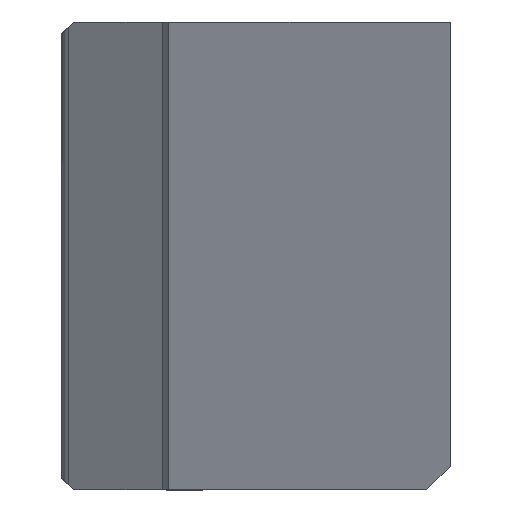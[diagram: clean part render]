
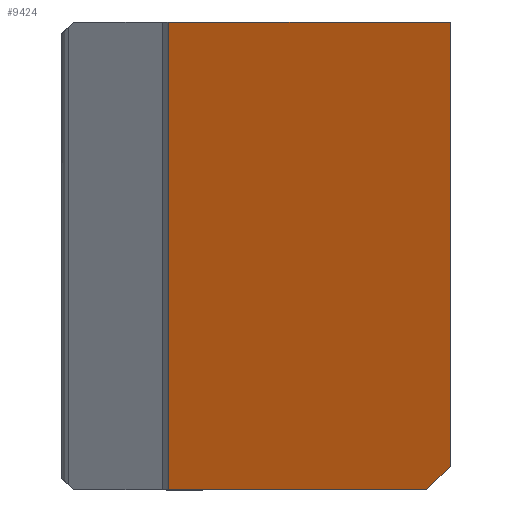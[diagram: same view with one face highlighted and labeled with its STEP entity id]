
A CAD part, left-side view. The second image highlights one B-rep face of the part: STEP entity #9424.
In plain terms, the highlighted planar face has unit normal (-0.943, 0, -0.334).
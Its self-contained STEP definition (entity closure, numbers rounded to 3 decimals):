
#23 = FACE_OUTER_BOUND ( 'NONE', #12364, .T. ) ;
#392 = EDGE_CURVE ( 'NONE', #17399, #10038, #18808, .T. ) ;
#1404 = DIRECTION ( 'NONE',  ( 0., -1., 0. ) ) ;
#1837 = CARTESIAN_POINT ( 'NONE',  ( 20.926, 3., -59. ) ) ;
#2043 = LINE ( 'NONE', #12326, #12205 ) ;
#2516 = ORIENTED_EDGE ( 'NONE', *, *, #18704, .F. ) ;
#3755 = EDGE_CURVE ( 'NONE', #11437, #7667, #8639, .T. ) ;
#3999 = VECTOR ( 'NONE', #1404, 1000. ) ;
#4642 = ORIENTED_EDGE ( 'NONE', *, *, #392, .T. ) ;
#5905 = DIRECTION ( 'NONE',  ( -0.334, 0., 0.942 ) ) ;
#7667 = VERTEX_POINT ( 'NONE', #8068 ) ;
#8068 = CARTESIAN_POINT ( 'NONE',  ( 0., 0., 0. ) ) ;
#8317 = DIRECTION ( 'NONE',  ( 0.334, 0., -0.942 ) ) ;
#8495 = DIRECTION ( 'NONE',  ( -0.243, -0.686, 0.686 ) ) ;
#8639 = LINE ( 'NONE', #14830, #3999 ) ;
#8878 = EDGE_CURVE ( 'NONE', #14195, #11437, #2043, .T. ) ;
#8999 = CARTESIAN_POINT ( 'NONE',  ( 20.926, 49., -59. ) ) ;
#9079 = ORIENTED_EDGE ( 'NONE', *, *, #15951, .F. ) ;
#9402 = ORIENTED_EDGE ( 'NONE', *, *, #8878, .F. ) ;
#9424 = ADVANCED_FACE ( 'NONE', ( #23 ), #11968, .T. ) ;
#9855 = CARTESIAN_POINT ( 'NONE',  ( 20.926, 35.5, -59. ) ) ;
#10038 = VERTEX_POINT ( 'NONE', #18221 ) ;
#10569 = DIRECTION ( 'NONE',  ( 0., 1., 0. ) ) ;
#11074 = CARTESIAN_POINT ( 'NONE',  ( 20.926, 0., -59. ) ) ;
#11339 = CARTESIAN_POINT ( 'NONE',  ( 9.343, -29.657, -26.343 ) ) ;
#11437 = VERTEX_POINT ( 'NONE', #16934 ) ;
#11968 = PLANE ( 'NONE',  #13160 ) ;
#12205 = VECTOR ( 'NONE', #18307, 1000. ) ;
#12326 = CARTESIAN_POINT ( 'NONE',  ( 0., 35.5, 0. ) ) ;
#12364 = EDGE_LOOP ( 'NONE', ( #9079, #4642, #2516, #15202, #9402 ) ) ;
#13160 = AXIS2_PLACEMENT_3D ( 'NONE', #19338, #15020, #5905 ) ;
#13631 = VECTOR ( 'NONE', #10569, 1000. ) ;
#14072 = VECTOR ( 'NONE', #8495, 1000. ) ;
#14195 = VERTEX_POINT ( 'NONE', #9855 ) ;
#14830 = CARTESIAN_POINT ( 'NONE',  ( 0., 49., 0. ) ) ;
#15020 = DIRECTION ( 'NONE',  ( -0.942, 0., -0.334 ) ) ;
#15202 = ORIENTED_EDGE ( 'NONE', *, *, #3755, .F. ) ;
#15374 = LINE ( 'NONE', #8999, #13631 ) ;
#15951 = EDGE_CURVE ( 'NONE', #17399, #14195, #15374, .T. ) ;
#16934 = CARTESIAN_POINT ( 'NONE',  ( 0., 35.5, 0. ) ) ;
#17108 = VECTOR ( 'NONE', #8317, 1000. ) ;
#17399 = VERTEX_POINT ( 'NONE', #1837 ) ;
#17436 = LINE ( 'NONE', #11074, #17108 ) ;
#18221 = CARTESIAN_POINT ( 'NONE',  ( 19.862, 0., -56. ) ) ;
#18307 = DIRECTION ( 'NONE',  ( -0.334, 0., 0.942 ) ) ;
#18704 = EDGE_CURVE ( 'NONE', #7667, #10038, #17436, .T. ) ;
#18808 = LINE ( 'NONE', #11339, #14072 ) ;
#19338 = CARTESIAN_POINT ( 'NONE',  ( 0., 0., 0. ) ) ;
